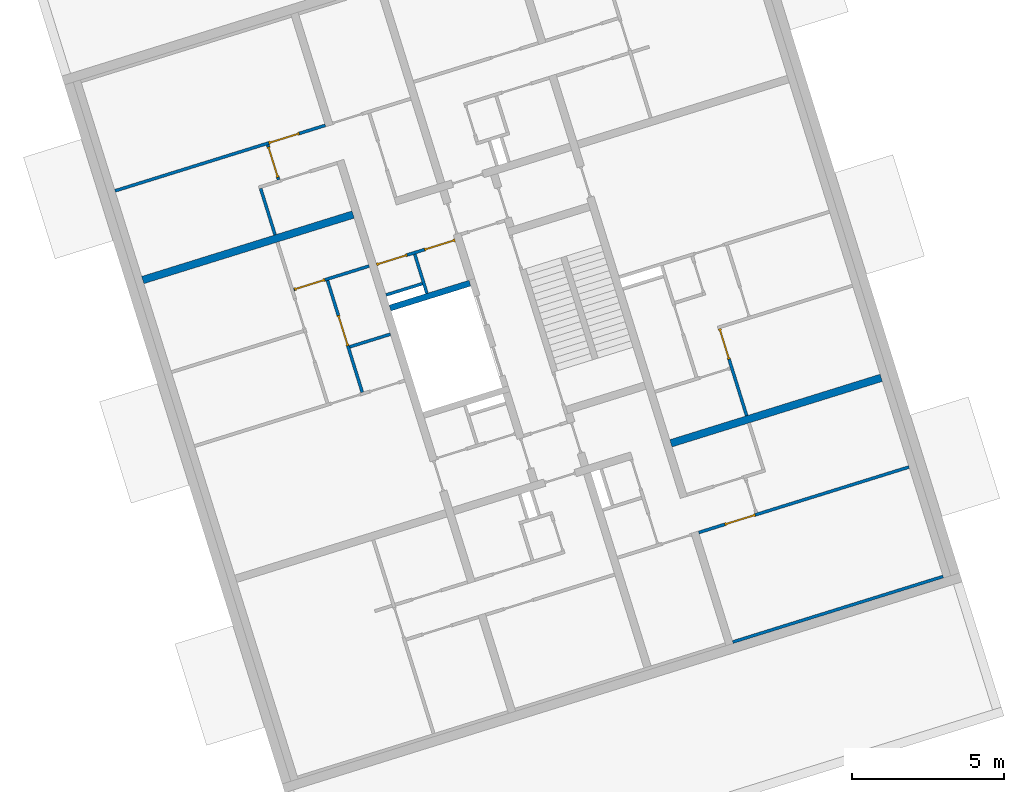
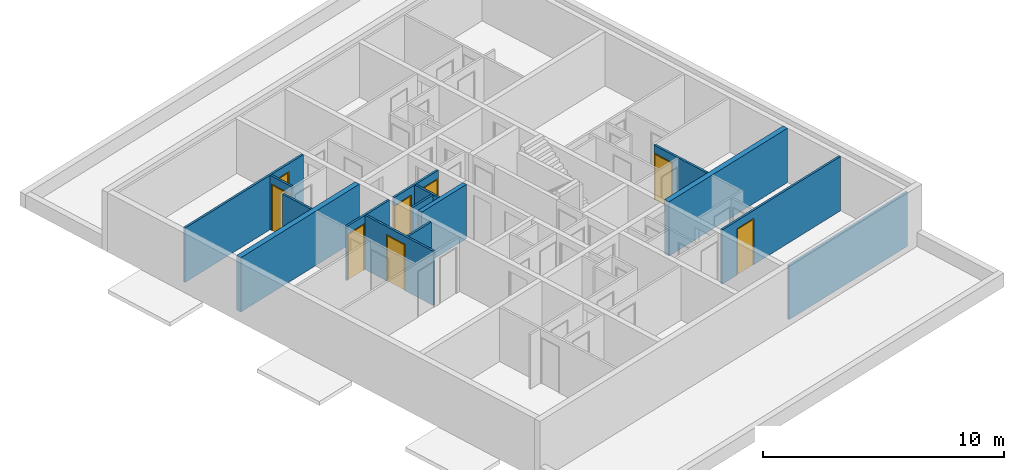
# One storey, part 4 of 9: 15 walls, 8 doors, 10 openings.
"""IFC4 building model written with IfcOpenShell, lengths in metres."""

import ifcopenshell
import ifcopenshell.guid

model = None  # the IFC model being written
_history = None  # IfcOwnerHistory: only IFC2X3 demands one
_inside = {}  # id of a spatial element -> (the spatial element, [elements in it])
_under = {}  # id of a project, library or spatial element -> (it, [spatial elements below it])
_declared = {}  # id of a project -> (the project, [libraries it declares])
_typed = {}  # id of a type object -> (the type object, [elements of that type])
_made_of = {}  # id of a material, layer set ... -> (it, [elements and type objects made of it])


def new_model(schema):
    """Start an empty IFC model of exactly this schema.

    Asked for "IFC4X3", IfcOpenShell would pick the latest addendum, in which some entities
    have other attributes; the version numbers below select the first issue.
    IFC2X3 requires an IfcOwnerHistory on every rooted entity: one is made here for all.
    """
    global model, _history
    if schema == "IFC4X3":
        model = ifcopenshell.file(schema_version=(4, 3, 0, 0))
    else:
        model = ifcopenshell.file(schema=schema)
    _inside.clear()
    _under.clear()
    _declared.clear()
    _typed.clear()
    _made_of.clear()
    _history = None
    if model.schema == "IFC2X3":
        org = make("IfcOrganization", Name="unknown")
        user = make(
            "IfcPersonAndOrganization",
            ThePerson=make("IfcPerson", FamilyName="unknown"),
            TheOrganization=org,
        )
        app = make(
            "IfcApplication",
            ApplicationDeveloper=org,
            Version="unknown",
            ApplicationFullName="unknown",
            ApplicationIdentifier="unknown",
        )
        _history = make(
            "IfcOwnerHistory",
            OwningUser=user,
            OwningApplication=app,
            ChangeAction="ADDED",
            CreationDate=0,
        )
    return model


def make(cls, **values):
    """One entity of the class cls with the attributes given. An attribute that is None is left unset."""
    return model.create_entity(
        cls, **{name: value for name, value in values.items() if value is not None}
    )


def entity(cls, *values):
    """Any entity or typed value of the class cls, its attributes in the order of the schema. None: left unset."""
    e = model.create_entity(cls)
    for i, value in enumerate(values):
        if value is not None:
            e[i] = value
    return e


def rooted(cls, **values):
    """An entity with a GlobalId (a new one), such as an element, a storey or a relation."""
    return make(cls, GlobalId=ifcopenshell.guid.new(), OwnerHistory=_history, **values)


def si_unit(unit_type, name, prefix=None):
    """IfcSIUnit, for example si_unit("LENGTHUNIT", "METRE", prefix="MILLI")."""
    return make("IfcSIUnit", UnitType=unit_type, Prefix=prefix, Name=name)


def converted_unit(unit_type, name, factor, base, dimensions=None, offset=None):
    """IfcConversionBasedUnit, such as the inch: factor (a typed value) times the base unit."""
    return make(
        "IfcConversionBasedUnit"
        if offset is None
        else "IfcConversionBasedUnitWithOffset",
        ConversionOffset=offset,
        Dimensions=None
        if dimensions is None
        else entity("IfcDimensionalExponents", *dimensions),
        UnitType=unit_type,
        Name=name,
        ConversionFactor=make(
            "IfcMeasureWithUnit", ValueComponent=factor, UnitComponent=base
        ),
    )


def assignment(units):
    """IfcUnitAssignment: the units of a project."""
    return None if units is None else make("IfcUnitAssignment", Units=units)


def point(xyz):
    """IfcCartesianPoint."""
    return None if xyz is None else make("IfcCartesianPoint", Coordinates=xyz)


def direction(xyz):
    """IfcDirection."""
    return None if xyz is None else make("IfcDirection", DirectionRatios=xyz)


def frame(location, z_axis=None, x_axis=None):
    """IfcAxis2Placement3D, a coordinate frame: its origin and axes. An axis left out is left unset."""
    return make(
        "IfcAxis2Placement3D",
        Location=point(location),
        Axis=direction(z_axis),
        RefDirection=direction(x_axis),
    )


def origin():
    """The frame at (0, 0, 0) with its axes left unset."""
    return frame((0.0, 0.0, 0.0))


def place(relative_to, where):
    """IfcLocalPlacement: puts the frame where relative to a parent placement (None: the world)."""
    return make(
        "IfcLocalPlacement", PlacementRelTo=relative_to, RelativePlacement=where
    )


def context(
    kind, dimensions, precision=None, world=None, true_north=None, identifier=None
):
    """IfcGeometricRepresentationContext, for example the 3D "Model" context."""
    return make(
        "IfcGeometricRepresentationContext",
        ContextIdentifier=identifier,
        ContextType=kind,
        CoordinateSpaceDimension=dimensions,
        Precision=precision,
        WorldCoordinateSystem=world,
        TrueNorth=true_north,
    )


def subcontext(parent, identifier, kind, view, scale=None):
    """IfcGeometricRepresentationSubContext, for example "Body" below "Model"."""
    return make(
        "IfcGeometricRepresentationSubContext",
        ContextIdentifier=identifier,
        ContextType=kind,
        ParentContext=parent,
        TargetScale=scale,
        TargetView=view,
    )


def project(units=None, contexts=None):
    """IfcProject with its units and contexts."""
    return rooted(
        "IfcProject",
        Name="project",
        RepresentationContexts=contexts,
        UnitsInContext=assignment(units),
    )


def spatial(cls, under=None, at=None, **own):
    """A site, building, storey or space (cls), placed at a placement, below another one or the project."""
    s = rooted(cls, ObjectPlacement=at, **own)
    if under is not None:
        _under.setdefault(under.id(), (under, []))[1].append(s)
    return s


def point_list(points):
    """IfcCartesianPointList2D or 3D."""
    cls = (
        "IfcCartesianPointList2D" if len(points[0]) == 2 else "IfcCartesianPointList3D"
    )
    return make(cls, CoordList=points)


def indexed_curve(points, segments=None, self_intersect=None):
    """IfcIndexedPolyCurve: lines and arcs through numbered points (the first is 1)."""
    return make(
        "IfcIndexedPolyCurve",
        Points=point_list(points),
        Segments=segments,
        SelfIntersect=self_intersect,
    )


def outline(outer, holes=None, kind="AREA"):
    """IfcArbitraryClosedProfileDef: a profile drawn as a closed curve; with holes, ...WithVoids."""
    if holes is None:
        return make("IfcArbitraryClosedProfileDef", ProfileType=kind, OuterCurve=outer)
    return make(
        "IfcArbitraryProfileDefWithVoids",
        ProfileType=kind,
        OuterCurve=outer,
        InnerCurves=holes,
    )


def extrude(swept, where, along, depth):
    """IfcExtrudedAreaSolid: the profile swept, set in the frame where, extruded along a direction by depth."""
    return make(
        "IfcExtrudedAreaSolid",
        SweptArea=swept,
        Position=where,
        ExtrudedDirection=direction(along),
        Depth=depth,
    )


def polygons(points, faces, closed=None, point_numbers=None):
    """IfcPolygonalFaceSet: a face is its outer loop, then its inner loops; points numbered from 1."""
    made = []
    for loops in faces:
        if len(loops) == 1:
            made.append(make("IfcIndexedPolygonalFace", CoordIndex=loops[0]))
        else:
            made.append(
                make(
                    "IfcIndexedPolygonalFaceWithVoids",
                    CoordIndex=loops[0],
                    InnerCoordIndices=loops[1:],
                )
            )
    return make(
        "IfcPolygonalFaceSet",
        Coordinates=point_list(points),
        Closed=closed,
        Faces=made,
        PnIndex=point_numbers,
    )


def shape(context_of_items, identifier, shape_type, items):
    """IfcShapeRepresentation: the items that make up one representation, for example the "Body"."""
    return make(
        "IfcShapeRepresentation",
        ContextOfItems=context_of_items,
        RepresentationIdentifier=identifier,
        RepresentationType=shape_type,
        Items=items,
    )


def source(mapping_origin, context_of_items, identifier, shape_type, items):
    """IfcRepresentationMap: a shape defined once, which mapped items show again and again."""
    return make(
        "IfcRepresentationMap",
        MappingOrigin=mapping_origin,
        MappedRepresentation=shape(context_of_items, identifier, shape_type, items),
    )


def transform(
    local_origin,
    x_axis=None,
    y_axis=None,
    z_axis=None,
    scale=None,
    scale2=None,
    scale3=None,
    uniform=True,
):
    """IfcCartesianTransformationOperator3D, or its non-uniform kind. x_axis, y_axis, z_axis: its Axis1, 2, 3."""
    if uniform:
        return make(
            "IfcCartesianTransformationOperator3D",
            Axis1=direction(x_axis),
            Axis2=direction(y_axis),
            LocalOrigin=point(local_origin),
            Scale=scale,
            Axis3=direction(z_axis),
        )
    return make(
        "IfcCartesianTransformationOperator3DnonUniform",
        Axis1=direction(x_axis),
        Axis2=direction(y_axis),
        LocalOrigin=point(local_origin),
        Scale=scale,
        Axis3=direction(z_axis),
        Scale2=scale2,
        Scale3=scale3,
    )


def mapped(mapping_source, mapping_target):
    """IfcMappedItem: shows the shape of a source again, moved by a transform."""
    return make(
        "IfcMappedItem", MappingSource=mapping_source, MappingTarget=mapping_target
    )


def material(Name=None, Category=None):
    """IfcMaterial."""
    return make("IfcMaterial", Name=Name, Category=Category)


def constituent(of_material, Name=None, Category=None, fraction=None):
    """IfcMaterialConstituent: one of the materials an element consists of."""
    return make(
        "IfcMaterialConstituent",
        Name=Name,
        Material=of_material,
        Fraction=fraction,
        Category=Category,
    )


def constituent_set(constituents=None, Name=None):
    """IfcMaterialConstituentSet."""
    return make(
        "IfcMaterialConstituentSet", Name=Name, MaterialConstituents=constituents
    )


def made_of(thing, what):
    """Note that an element or type object is made of a material, layer set ...; save() writes the relation."""
    if what is not None:
        _made_of.setdefault(what.id(), (what, []))[1].append(thing)
    return thing


def type_object(cls, material=None, **own):
    """A type object (cls), such as IfcWallType, which elements share."""
    return made_of(rooted(cls, **own), material)


def type_shapes(of_type, sources):
    """Give a type object the sources (RepresentationMaps) that its elements show as mapped items."""
    of_type.RepresentationMaps = sources


def element(
    cls,
    number,
    at=None,
    inside=None,
    cuts=None,
    type_object=None,
    material=None,
    context=None,
    identifier="Body",
    shape_type=None,
    held_by="IfcProductDefinitionShape",
    body=None,
    shapes=None,
    **own,
):
    """One element of the class cls, such as IfcWall. Its Tag is "e" and its number.

    at: its placement. inside: the storey or other place that contains it. cuts: it is an
    opening in that element (IfcRelVoidsElement). A single representation is given by context,
    identifier, shape_type and body (its items); several are given by shapes. held_by: the class
    of the entity that holds the representations. save() writes the other relations.
    """
    e = rooted(cls, Tag="e%d" % number, ObjectPlacement=at, **own)
    if body is not None:
        shapes = [shape(context, identifier, shape_type, body)]
    if shapes is not None:
        e.Representation = make(held_by, Representations=shapes)
    if inside is not None:
        _inside.setdefault(inside.id(), (inside, []))[1].append(e)
    if cuts is not None:
        rooted(
            "IfcRelVoidsElement", RelatingBuildingElement=cuts, RelatedOpeningElement=e
        )
    if type_object is not None:
        _typed.setdefault(type_object.id(), (type_object, []))[1].append(e)
    return made_of(e, material)


def fill(opening, filler):
    """IfcRelFillsElement: the door or window that sits in an opening."""
    return rooted(
        "IfcRelFillsElement",
        RelatingOpeningElement=opening,
        RelatedBuildingElement=filler,
    )


def aggregate(whole, parts):
    """IfcRelAggregates: a whole, such as a stair, and the parts it consists of."""
    return rooted("IfcRelAggregates", RelatingObject=whole, RelatedObjects=parts)


def save(model, path):
    """Write the relations noted so far, then the file.

    IfcRelAggregates (storeys below a building ...), IfcRelContainedInSpatialStructure (elements
    in a storey), IfcRelDefinesByType, IfcRelAssociatesMaterial and IfcRelDeclares: one each for
    every whole, place, type object, material and project.
    """
    for whole, parts in _under.values():
        aggregate(whole, parts)
    for where, things in _inside.values():
        rooted(
            "IfcRelContainedInSpatialStructure",
            RelatedElements=things,
            RelatingStructure=where,
        )
    for kind, things in _typed.values():
        rooted("IfcRelDefinesByType", RelatedObjects=things, RelatingType=kind)
    for what, things in _made_of.values():
        rooted("IfcRelAssociatesMaterial", RelatedObjects=things, RelatingMaterial=what)
    for by, libraries in _declared.values():
        rooted("IfcRelDeclares", RelatingContext=by, RelatedDefinitions=libraries)
    model.write(path)


model = new_model("IFC4")

# Units and contexts
model_context = context("Model", 3, precision=1e-05, world=origin(), true_north=direction((6.12323399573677e-17, 1.0)))
body_context = subcontext(model_context, "Body", "Model", "MODEL_VIEW")
ifc_project = project(units=[si_unit("LENGTHUNIT", "METRE"), si_unit("AREAUNIT", "SQUARE_METRE"), si_unit("VOLUMEUNIT", "CUBIC_METRE"), converted_unit("PLANEANGLEUNIT", "DEGREE", entity("IfcPlaneAngleMeasure", 0.0174532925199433), si_unit("PLANEANGLEUNIT", "RADIAN"), dimensions=[0, 0, 0, 0, 0, 0, 0])], contexts=[model_context])

# Site, building, storey
site_placement = place(None, frame((13.1347999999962, 11.9886000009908, 0.0), z_axis=(0.0, 0.0, 1.0), x_axis=(0.954770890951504, 0.297342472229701, 0.0)))
site = spatial("IfcSite", under=ifc_project, at=site_placement, Name="Schiehaven", CompositionType="ELEMENT")
building_placement = place(site_placement, origin())
building = spatial("IfcBuilding", under=site, at=building_placement, Name="VORM huis", CompositionType="ELEMENT")
storey_placement = place(building_placement, frame((0.0, 0.0, 6.9)))
storey = spatial("IfcBuildingStorey", under=building, at=storey_placement, Name="02 tweede verdieping", CompositionType="ELEMENT", Elevation=6.9)

# Walls
ifc_material_1 = material(Name="ntb_ntb_ntb", Category="Miscellaneous")
wall_type_1 = type_object("IfcWallType", Name="Basic Wall:21_WA_gevel_binnenspouwwand 100mm_gen", PredefinedType="STANDARD")
wall_1_placement = place(storey_placement, frame((20.125, 5.04999999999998, 0.0)))
element("IfcWall", 1, at=wall_1_placement, inside=storey, type_object=wall_type_1, material=ifc_material_1, Name="Binnenspouwblad", ObjectType="Wand", PredefinedType="NOTDEFINED", context=body_context, shape_type="SweptSolid", body=[
    extrude(outline(indexed_curve([(7.24999999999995, 0.0500000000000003), (-1.84844170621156e-16, 0.0500000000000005), (1.84844170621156e-16, -0.0500000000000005), (7.24999999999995, -0.0500000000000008), (7.24999999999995, 0.0500000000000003)], self_intersect=False)), origin(), (0.0, 0.0, 1.0), 2.75),
])
ifc_material_2 = material(Name="beton_gewapend_prefab-element", Category="Miscellaneous")
wall_type_2 = type_object("IfcWallType", Name="Basic Wall:28_WA_skelet_wand 200mm_gen", PredefinedType="STANDARD")
wall_2_placement = place(storey_placement, frame((15.3750000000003, 18.9, 0.0), z_axis=(0.0, 0.0, 1.0), x_axis=(-1.0, 0.0, 0.0)))
element("IfcWall", 2, at=wall_2_placement, inside=storey, type_object=wall_type_2, material=ifc_material_2, Name="Constructieve wand", ObjectType="Wand", PredefinedType="NOTDEFINED", context=body_context, shape_type="SweptSolid", body=[
    extrude(outline(indexed_curve([(2.75000000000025, 0.100000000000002), (-2.05391259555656e-16, 0.100000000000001), (2.05391259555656e-16, -0.100000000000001), (2.75000000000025, -0.0999999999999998), (2.75000000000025, 0.100000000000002)], self_intersect=False)), origin(), (0.0, 0.0, 1.0), 2.75),
])
wall_type_3 = type_object("IfcWallType", Name="Basic Wall:22_WA_afbouw_binnenwand 250mm_gen", PredefinedType="STANDARD")
wall_3_placement = place(storey_placement, frame((12.3750000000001, 22.2, 0.0), z_axis=(0.0, 0.0, 1.0), x_axis=(-1.0, 0.0, 0.0)))
element("IfcWall", 3, at=wall_3_placement, inside=storey, type_object=wall_type_3, material=ifc_material_1, Name="Binnenwand", ObjectType="Wand", PredefinedType="NOTDEFINED", context=body_context, shape_type="SweptSolid", body=[
    extrude(outline(indexed_curve([(7.24999999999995, 0.125000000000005), (-4.9649652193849e-16, 0.125000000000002), (4.9649652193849e-16, -0.125000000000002), (7.24999999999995, -0.124999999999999), (7.24999999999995, 0.125000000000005)], self_intersect=False)), origin(), (0.0, 0.0, 1.0), 2.75),
])
wall_4_placement = place(storey_placement, frame((20.125, 11.9, 0.0)))
element("IfcWall", 4, at=wall_4_placement, inside=storey, type_object=wall_type_3, material=ifc_material_1, Name="Binnenwand", ObjectType="Wand", PredefinedType="NOTDEFINED", context=body_context, shape_type="SweptSolid", body=[
    extrude(outline(indexed_curve([(7.24999999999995, 0.125), (-1.92055213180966e-16, 0.125), (1.92055213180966e-16, -0.125), (7.24999999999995, -0.124999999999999), (7.24999999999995, 0.125)], self_intersect=False)), origin(), (0.0, 0.0, 1.0), 2.75),
])

# Wall, opening, door
wall_type_4 = type_object("IfcWallType", Name="Basic Wall:22_WA_afbouw_binnenwand 100mm_gen", PredefinedType="STANDARD")
wall_5_placement = place(storey_placement, frame((27.3750000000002, 8.82499999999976, 0.0), z_axis=(0.0, 0.0, 1.0), x_axis=(-1.0, 0.0, 0.0)))
wall_5 = element("IfcWall", 5, at=wall_5_placement, inside=storey, type_object=wall_type_4, material=ifc_material_1, Name="Binnenwand", ObjectType="Wand", PredefinedType="NOTDEFINED", context=body_context, shape_type="Tessellation", body=[
    polygons([(6.35000000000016, -0.0500000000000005, 2.34999999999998), (6.35000000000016, -0.0500000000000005, 1.08286712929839e-15), (7.25000000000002, -0.0500000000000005, 1.08286712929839e-15), (7.25000000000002, -0.0500000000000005, 2.75), (5.30000000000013, -0.0500000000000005, 2.75), (5.20000000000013, -0.0500000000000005, 2.75), (5.16304195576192e-15, -0.0500000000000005, 2.75), (5.16304195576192e-15, -0.0500000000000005, 1.08286712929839e-15), (5.20000000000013, -0.0500000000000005, 0.0), (5.30000000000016, -0.0500000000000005, 1.08286712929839e-15), (5.30000000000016, -0.0500000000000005, 2.34999999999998), (7.25000000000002, 0.0499999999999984, 1.08286712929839e-15), (6.35000000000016, 0.0499999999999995, 1.08286712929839e-15), (6.35000000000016, 0.0499999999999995, 2.34999999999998), (5.30000000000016, 0.0499999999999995, 2.34999999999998), (5.30000000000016, 0.0499999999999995, 1.08286712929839e-15), (4.86084043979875e-15, 0.0500000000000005, 1.08286712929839e-15), (4.86084043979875e-15, 0.0500000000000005, 2.75), (7.25000000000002, 0.0499999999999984, 2.75)], [[[1, 2, 3, 4, 5, 6, 7, 8, 9, 10, 11]], [[12, 13, 14, 15, 16, 17, 18, 19]], [[10, 9, 8, 17, 16]], [[4, 3, 12, 19]], [[7, 6, 5, 4, 19, 18]], [[8, 7, 18, 17]], [[16, 15, 11, 10]], [[14, 13, 2, 1]], [[15, 14, 1, 11]], [[3, 2, 13, 12]]], closed=True),
])
opening_1_placement = place(wall_5_placement, frame((6.35000000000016, 0.04999999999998, 0.0)))
opening_1 = element("IfcOpeningElement", 6, at=opening_1_placement, cuts=wall_5, Name="Binnendeur", PredefinedType="OPENING", context=body_context, shape_type="SweptSolid", body=[
    extrude(outline(indexed_curve([(2.34999999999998, 1.05), (0.0, 1.05), (0.0, 0.0), (2.34999999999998, 0.0), (2.34999999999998, 1.05)], self_intersect=False)), frame((0.0, 0.0, 0.0), z_axis=(0.0, -1.0, 0.0), x_axis=(0.0, 0.0, 1.0)), (0.0, 0.0, 1.0), 0.1),
])
ifc_material_3 = material(Name="PD_a_binnenwandopeningen", Category="Miscellaneous")
ifc_constituent_1 = constituent(ifc_material_3, Name="PD_a_binnenwandopeningen", Category="Miscellaneous")
ifc_material_4 = material(Name="metaal_aluminium_ntb", Category="Miscellaneous")
ifc_constituent_2 = constituent(ifc_material_4, Name="metaal_aluminium_ntb", Category="Miscellaneous")
ifc_constituent_set_1 = constituent_set(constituents=[ifc_constituent_1, ifc_constituent_2])
door_type = type_object("IfcDoorType", Name="32_DO_binnendeur enkel:binnendeur", OperationType="REVOLVING", PredefinedType="DOOR")
shared_shape_1 = source(origin(), body_context, "Body", "SweptSolid", [
    extrude(outline(indexed_curve([(-1.16249999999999, -0.525000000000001), (1.18749999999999, -0.525), (1.18749999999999, 0.525), (-1.16249999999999, 0.525), (-1.16249999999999, 0.475), (1.13749999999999, 0.475), (1.13749999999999, -0.475), (-1.16249999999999, -0.475), (-1.16249999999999, -0.525000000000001)], self_intersect=False)), frame((0.525000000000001, 0.0, 1.16249999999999), z_axis=(0.0, 1.0, 0.0), x_axis=(0.0, 0.0, 1.0)), (0.0, 0.0, 1.0), 0.1),
    extrude(outline(indexed_curve([(-0.025, -0.475), (0.025, -0.475), (0.025, 0.475), (-0.025, 0.475), (-0.025, -0.475)], self_intersect=False)), frame((0.525000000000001, 0.0499999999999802, 0.0), z_axis=(0.0, 0.0, 1.0), x_axis=(0.0, 1.0, 0.0)), (0.0, 0.0, 1.0), 2.29999999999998),
])
type_shapes(door_type, [shared_shape_1])
door_1_placement = place(opening_1_placement, frame((0.0, 0.0, 0.0), z_axis=(0.0, 0.0, 1.0), x_axis=(-1.0, 0.0, 0.0)))
door_1 = element("IfcDoor", 7, at=door_1_placement, inside=storey, type_object=door_type, material=ifc_constituent_set_1, Name="Binnendeur", ObjectType="Deur", OperationType="REVOLVING", OverallHeight=2.34999999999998, OverallWidth=1.05, PredefinedType="DOOR", context=body_context, shape_type="MappedRepresentation", body=[
    mapped(shared_shape_1, transform((0.0, 0.0, 0.0), scale=1.0)),
])
fill(opening_1, door_1)

wall_6_placement = place(storey_placement, frame((22.7750000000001, 12.025, 0.0), z_axis=(0.0, 0.0, 1.0), x_axis=(0.0, 1.0, 0.0)))
wall_6 = element("IfcWall", 8, at=wall_6_placement, inside=storey, type_object=wall_type_4, material=ifc_material_1, Name="Binnenwand", ObjectType="Wand", PredefinedType="NOTDEFINED", context=body_context, shape_type="Tessellation", body=[
    polygons([(3.00000000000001, -0.0499999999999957, 2.75), (0.0, -0.049999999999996, 2.75), (0.0, -0.049999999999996, 1.08286712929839e-15), (1.95000000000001, -0.0499999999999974, 1.08286712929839e-15), (1.95000000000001, -0.0499999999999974, 2.34999999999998), (3.00000000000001, -0.0499999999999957, 2.34999999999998), (0.0, 0.0500000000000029, 2.75), (1.60000000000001, 0.050000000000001, 2.75), (1.70000000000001, 0.0500000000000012, 2.75), (3.00000000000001, 0.0500000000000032, 2.75), (3.00000000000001, 0.0500000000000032, 2.34999999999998), (1.95000000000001, 0.0500000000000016, 2.34999999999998), (1.95000000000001, 0.0500000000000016, 1.08286712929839e-15), (1.70000000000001, 0.0500000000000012, 0.0), (1.60000000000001, 0.050000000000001, 0.0), (0.0, 0.0500000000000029, 1.08286712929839e-15)], [[[1, 2, 3, 4, 5, 6]], [[7, 8, 9, 10, 11, 12, 13, 14, 15, 16]], [[3, 16, 15, 14, 13, 4]], [[2, 1, 10, 9, 8, 7]], [[3, 2, 7, 16]], [[10, 1, 6, 11]], [[12, 5, 4, 13]], [[5, 12, 11, 6]]], closed=True),
])
opening_2_placement = place(wall_6_placement, frame((1.95000000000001, -0.0500000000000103, 0.0)))
opening_2 = element("IfcOpeningElement", 9, at=opening_2_placement, cuts=wall_6, Name="Binnendeur", PredefinedType="OPENING", context=body_context, shape_type="SweptSolid", body=[
    extrude(outline(indexed_curve([(2.34999999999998, 1.05), (0.0, 1.05), (0.0, 1.35358391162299e-15), (2.34999999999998, 1.35358391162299e-15), (2.34999999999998, 1.05)], self_intersect=False)), frame((0.0, 0.0, 0.0), z_axis=(0.0, 1.0, 0.0), x_axis=(0.0, 0.0, 1.0)), (0.0, 0.0, 1.0), 0.1),
])
ifc_constituent_3 = constituent(ifc_material_3, Name="PD_a_binnenwandopeningen", Category="Miscellaneous")
ifc_constituent_4 = constituent(ifc_material_4, Name="metaal_aluminium_ntb", Category="Miscellaneous")
ifc_constituent_set_2 = constituent_set(constituents=[ifc_constituent_3, ifc_constituent_4])
door_2_placement = place(opening_2_placement, origin())
door_2 = element("IfcDoor", 10, at=door_2_placement, inside=storey, type_object=door_type, material=ifc_constituent_set_2, Name="Binnendeur", ObjectType="Deur", OperationType="REVOLVING", OverallHeight=2.34999999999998, OverallWidth=1.05, PredefinedType="DOOR", context=body_context, shape_type="MappedRepresentation", body=[
    mapped(shared_shape_1, transform((0.0, 0.0, 0.0), scale=1.0)),
])
fill(opening_2, door_2)

wall_7_placement = place(storey_placement, frame((5.12500000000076, 25.2750000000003, 0.0)))
wall_7 = element("IfcWall", 11, at=wall_7_placement, inside=storey, type_object=wall_type_4, material=ifc_material_1, Name="Binnenwand", ObjectType="Wand", PredefinedType="NOTDEFINED", context=body_context, shape_type="Tessellation", body=[
    polygons([(6.35000000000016, -0.0499999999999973, 2.34999999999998), (6.35000000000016, -0.0499999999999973, 1.08286712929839e-15), (7.25000000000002, -0.0499999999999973, 1.08286712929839e-15), (7.25000000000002, -0.0499999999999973, 2.75), (5.30000000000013, -0.0499999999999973, 2.75), (5.20000000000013, -0.0499999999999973, 2.75), (1.49648379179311e-16, -0.0499999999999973, 2.75), (1.49648379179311e-16, -0.0499999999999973, 1.08286712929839e-15), (5.20000000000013, -0.0499999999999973, 0.0), (5.30000000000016, -0.0499999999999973, 1.08286712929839e-15), (5.30000000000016, -0.0499999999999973, 2.34999999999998), (7.25000000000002, 0.0500000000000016, 1.08286712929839e-15), (6.35000000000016, 0.0500000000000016, 1.08286712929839e-15), (6.35000000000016, 0.0500000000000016, 2.34999999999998), (5.30000000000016, 0.0500000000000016, 2.34999999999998), (5.30000000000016, 0.0500000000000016, 1.08286712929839e-15), (-8.58641826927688e-17, 0.0500000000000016, 1.08286712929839e-15), (-8.58641826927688e-17, 0.0500000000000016, 2.75), (7.25000000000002, 0.0500000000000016, 2.75)], [[[1, 2, 3, 4, 5, 6, 7, 8, 9, 10, 11]], [[12, 13, 14, 15, 16, 17, 18, 19]], [[10, 9, 8, 17, 16]], [[4, 3, 12, 19]], [[7, 6, 5, 4, 19, 18]], [[8, 7, 18, 17]], [[16, 15, 11, 10]], [[14, 13, 2, 1]], [[15, 14, 1, 11]], [[3, 2, 13, 12]]], closed=True),
])
opening_3_placement = place(wall_7_placement, frame((6.35000000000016, 0.049999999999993, 0.0)))
opening_3 = element("IfcOpeningElement", 12, at=opening_3_placement, cuts=wall_7, Name="Binnendeur", PredefinedType="OPENING", context=body_context, shape_type="SweptSolid", body=[
    extrude(outline(indexed_curve([(2.34999999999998, 1.05), (0.0, 1.05), (0.0, 1.08286712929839e-15), (2.34999999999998, 1.08286712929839e-15), (2.34999999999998, 1.05)], self_intersect=False)), frame((0.0, 0.0, 0.0), z_axis=(0.0, -1.0, 0.0), x_axis=(0.0, 0.0, 1.0)), (0.0, 0.0, 1.0), 0.1),
])
ifc_constituent_5 = constituent(ifc_material_3, Name="PD_a_binnenwandopeningen", Category="Miscellaneous")
ifc_constituent_6 = constituent(ifc_material_4, Name="metaal_aluminium_ntb", Category="Miscellaneous")
ifc_constituent_set_3 = constituent_set(constituents=[ifc_constituent_5, ifc_constituent_6])
door_3_placement = place(opening_3_placement, frame((0.0, 0.0, 0.0), z_axis=(0.0, 0.0, 1.0), x_axis=(-1.0, 0.0, 0.0)))
door_3 = element("IfcDoor", 13, at=door_3_placement, inside=storey, type_object=door_type, material=ifc_constituent_set_3, Name="Binnendeur", ObjectType="Deur", OperationType="REVOLVING", OverallHeight=2.34999999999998, OverallWidth=1.05, PredefinedType="DOOR", context=body_context, shape_type="MappedRepresentation", body=[
    mapped(shared_shape_1, transform((0.0, 0.0, 0.0), scale=1.0)),
])
fill(opening_3, door_3)

# Wall
wall_8_placement = place(storey_placement, frame((9.7250000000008, 23.9250000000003, 0.0), z_axis=(0.0, 0.0, 1.0), x_axis=(0.0, -1.0, 0.0)))
element("IfcWall", 14, at=wall_8_placement, inside=storey, type_object=wall_type_4, material=ifc_material_1, Name="Binnenwand", ObjectType="Wand", PredefinedType="NOTDEFINED", context=body_context, shape_type="SweptSolid", body=[
    extrude(outline(indexed_curve([(1.60000000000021, 0.0500000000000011), (-8.47752397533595e-17, 0.0500000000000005), (8.47752397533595e-17, -0.0500000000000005), (1.60000000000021, -0.0500000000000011), (1.60000000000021, 0.0500000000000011)], self_intersect=False)), origin(), (0.0, 0.0, 1.0), 2.75),
])

# Wall, openings, door
wall_9_placement = place(storey_placement, frame((10.3750000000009, 24.0250000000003, 0.0), z_axis=(0.0, 0.0, 1.0), x_axis=(0.0, 1.0, 0.0)))
wall_9 = element("IfcWall", 15, at=wall_9_placement, inside=storey, type_object=wall_type_4, material=ifc_material_1, Name="Binnenwand", ObjectType="Wand", PredefinedType="NOTDEFINED", context=body_context, shape_type="Tessellation", body=[
    polygons([(1.19999999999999, -0.0499999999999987, 2.75), (0.0, -0.0500000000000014, 2.75), (0.0, -0.0499999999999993, 2.34999999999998), (0.0, -0.0500000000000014, 1.08286712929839e-15), (0.0799999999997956, -0.0500000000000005, 1.08286712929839e-15), (0.0799999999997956, -0.0500000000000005, 2.34999999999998), (1.1299999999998, -0.0499999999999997, 2.34999999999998), (1.1299999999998, -0.0499999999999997, 1.08286712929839e-15), (1.19999999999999, -0.0499999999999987, 1.08286712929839e-15), (1.19999999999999, -0.0500000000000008, 2.34999999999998), (0.0, 0.0499999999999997, 2.75), (1.19999999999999, 0.0499999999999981, 2.75), (1.19999999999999, 0.0499999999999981, 1.08286712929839e-15), (1.1299999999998, 0.0499999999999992, 1.08286712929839e-15), (1.1299999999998, 0.0499999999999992, 2.34999999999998), (0.0799999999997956, 0.0499999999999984, 2.34999999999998), (0.0799999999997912, 0.0499999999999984, 1.08286712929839e-15), (0.0, 0.0499999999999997, 1.08286712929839e-15)], [[[1, 2, 3, 4, 5, 6, 7, 8, 9, 10]], [[11, 12, 13, 14, 15, 16, 17, 18]], [[4, 18, 17, 5]], [[2, 1, 12, 11]], [[1, 10, 9, 13, 12]], [[4, 3, 2, 11, 18]], [[7, 15, 14, 8]], [[15, 7, 6, 16]], [[16, 6, 5, 17]], [[13, 9, 8, 14]]], closed=True),
])
opening_4_placement = place(wall_9_placement, frame((1.1299999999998, 0.0500000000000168, 0.0)))
opening_4 = element("IfcOpeningElement", 16, at=opening_4_placement, cuts=wall_9, Name="Binnendeur", PredefinedType="OPENING", context=body_context, shape_type="SweptSolid", body=[
    extrude(outline(indexed_curve([(2.34999999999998, 0.0), (2.34999999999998, 1.05), (0.0, 1.05), (0.0, 0.0), (2.34999999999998, 0.0)], self_intersect=False)), frame((0.0, 0.0, 0.0), z_axis=(0.0, -1.0, 0.0), x_axis=(0.0, 0.0, 1.0)), (0.0, 0.0, 1.0), 0.1),
])
opening_5_placement = place(wall_9_placement, frame((-24.0250000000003, 10.3750000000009, 0.0), z_axis=(0.0, 0.0, 1.0), x_axis=(0.0, -1.0, 0.0)))
element("IfcOpeningElement", 17, at=opening_5_placement, cuts=wall_9, Name="Binnendeur", PredefinedType="OPENING", context=body_context, shape_type="SweptSolid", body=[
    extrude(outline(indexed_curve([(-1.17499999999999, -0.524999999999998), (1.17499999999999, -0.525000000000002), (1.17499999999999, 0.525000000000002), (-1.17499999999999, 0.525000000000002), (-1.17499999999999, -0.524999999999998)], self_intersect=False)), frame((11.8490000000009, 24.6300000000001, 1.17499999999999), z_axis=(-1.0, 0.0, 0.0), x_axis=(0.0, 0.0, -1.0)), (0.0, 0.0, 1.0), 3.048),
])
ifc_constituent_7 = constituent(ifc_material_3, Name="PD_a_binnenwandopeningen", Category="Miscellaneous")
ifc_constituent_8 = constituent(ifc_material_4, Name="metaal_aluminium_ntb", Category="Miscellaneous")
ifc_constituent_set_4 = constituent_set(constituents=[ifc_constituent_7, ifc_constituent_8])
shared_shape_2 = source(origin(), body_context, "Body", "SweptSolid", [
    extrude(outline(indexed_curve([(0.475, -1.16249999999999), (0.525, -1.16249999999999), (0.525, 1.18749999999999), (-0.525, 1.18749999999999), (-0.525, -1.16249999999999), (-0.475, -1.16249999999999), (-0.475, 1.13749999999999), (0.475, 1.13749999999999), (0.475, -1.16249999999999)], self_intersect=False)), frame((0.525000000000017, 0.100000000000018, 1.16249999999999), z_axis=(0.0, -1.0, 0.0), x_axis=(1.0, 0.0, 0.0)), (0.0, 0.0, 1.0), 0.1),
    extrude(outline(indexed_curve([(-0.475, -0.025), (0.475, -0.025), (0.475, 0.025), (-0.475, 0.025), (-0.475, -0.025)], self_intersect=False)), frame((0.525000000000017, 0.0499999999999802, 0.0)), (0.0, 0.0, 1.0), 2.29999999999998),
])
door_4_placement = place(opening_4_placement, frame((0.0, 0.0, 0.0), z_axis=(0.0, 0.0, 1.0), x_axis=(-1.0, 0.0, 0.0)))
door_4 = element("IfcDoor", 18, at=door_4_placement, inside=storey, type_object=door_type, material=ifc_constituent_set_4, Name="Binnendeur", ObjectType="Deur", OperationType="REVOLVING", OverallHeight=2.34999999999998, OverallWidth=1.05, PredefinedType="DOOR", context=body_context, shape_type="MappedRepresentation", body=[
    mapped(shared_shape_2, transform((0.0, 0.0, 0.0), scale=1.0)),
])
fill(opening_4, door_4)

# Wall
wall_10_placement = place(storey_placement, frame((13.9250000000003, 19.0, 0.0), z_axis=(0.0, 0.0, 1.0), x_axis=(0.0, 1.0, 0.0)))
element("IfcWall", 19, at=wall_10_placement, inside=storey, type_object=wall_type_4, material=ifc_material_1, Name="Binnenwand", ObjectType="Wand", PredefinedType="NOTDEFINED", context=body_context, shape_type="SweptSolid", body=[
    extrude(outline(indexed_curve([(1.34999999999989, 0.05), (-2.17202003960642e-17, 0.0499999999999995), (2.17202003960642e-17, -0.0499999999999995), (1.34999999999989, -0.0499999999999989), (1.34999999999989, 0.05)], self_intersect=False)), origin(), (0.0, 0.0, 1.0), 2.75),
])

# Wall, openings, doors
wall_11_placement = place(storey_placement, frame((12.6250000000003, 20.4, 0.0)))
wall_11 = element("IfcWall", 20, at=wall_11_placement, inside=storey, type_object=wall_type_4, material=ifc_material_1, Name="Binnenwand", ObjectType="Wand", PredefinedType="NOTDEFINED", context=body_context, shape_type="Tessellation", body=[
    polygons([(2.70000000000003, -0.0499999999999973, 2.75), (1.35000000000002, -0.0499999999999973, 2.75), (1.25000000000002, -0.0499999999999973, 2.75), (9.09406101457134e-16, -0.0499999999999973, 2.75), (9.09406101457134e-16, -0.0499999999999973, 2.34999999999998), (1.05000000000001, -0.0499999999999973, 2.34999999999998), (1.05000000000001, -0.0499999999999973, 1.08286712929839e-15), (1.25000000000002, -0.0499999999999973, 0.0), (1.35000000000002, -0.0499999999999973, 0.0), (1.65000000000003, -0.0499999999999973, 1.08286712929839e-15), (1.65000000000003, -0.0499999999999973, 2.34999999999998), (2.70000000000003, -0.0499999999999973, 2.34999999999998), (1.89829959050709e-15, 0.0500000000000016, 2.75), (2.70000000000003, 0.0500000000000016, 2.75), (2.70000000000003, 0.0500000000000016, 2.34999999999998), (1.65000000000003, 0.0500000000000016, 2.34999999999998), (1.65000000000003, 0.0500000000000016, 1.08286712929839e-15), (1.05000000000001, 0.0500000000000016, 1.08286712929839e-15), (1.05000000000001, 0.0500000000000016, 2.34999999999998), (1.89829959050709e-15, 0.0500000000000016, 2.34999999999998)], [[[1, 2, 3, 4, 5, 6, 7, 8, 9, 10, 11, 12]], [[13, 14, 15, 16, 17, 18, 19, 20]], [[17, 10, 9, 8, 7, 18]], [[14, 1, 12, 15]], [[4, 3, 2, 1, 14, 13]], [[4, 13, 20, 5]], [[6, 19, 18, 7]], [[19, 6, 5, 20]], [[16, 11, 10, 17]], [[11, 16, 15, 12]]], closed=True),
])
opening_6_placement = place(wall_11_placement, frame((0.0, -0.050000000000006, 0.0)))
opening_6 = element("IfcOpeningElement", 21, at=opening_6_placement, cuts=wall_11, Name="Binnendeur", PredefinedType="OPENING", context=body_context, shape_type="SweptSolid", body=[
    extrude(outline(indexed_curve([(2.34999999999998, 1.05), (0.0, 1.05), (0.0, 1.35358391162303e-15), (2.34999999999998, 1.35358391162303e-15), (2.34999999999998, 1.05)], self_intersect=False)), frame((0.0, 0.0, 0.0), z_axis=(0.0, 1.0, 0.0), x_axis=(0.0, 0.0, 1.0)), (0.0, 0.0, 1.0), 0.1),
])
opening_7_placement = place(wall_11_placement, frame((-12.6250000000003, -20.4, 0.0)))
element("IfcOpeningElement", 22, at=opening_7_placement, cuts=wall_11, Name="Binnendeur", PredefinedType="OPENING", context=body_context, shape_type="SweptSolid", body=[
    extrude(outline(indexed_curve([(-1.17499999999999, -0.525000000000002), (1.17499999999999, -0.525), (1.17499999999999, 0.525), (-1.17499999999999, 0.525), (-1.17499999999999, -0.525000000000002)], self_intersect=False)), frame((13.1500000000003, 18.826, 1.17499999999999), z_axis=(0.0, 1.0, 0.0), x_axis=(0.0, 0.0, -1.0)), (0.0, 0.0, 1.0), 3.048),
])
opening_8_placement = place(wall_11_placement, frame((1.65000000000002, -0.0500000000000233, 0.0)))
opening_8 = element("IfcOpeningElement", 23, at=opening_8_placement, cuts=wall_11, Name="Binnendeur", PredefinedType="OPENING", context=body_context, shape_type="SweptSolid", body=[
    extrude(outline(indexed_curve([(2.34999999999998, 1.05), (0.0, 1.05), (0.0, 1.35358391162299e-15), (2.34999999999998, 1.35358391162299e-15), (2.34999999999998, 1.05)], self_intersect=False)), frame((0.0, 0.0, 0.0), z_axis=(0.0, 1.0, 0.0), x_axis=(0.0, 0.0, 1.0)), (0.0, 0.0, 1.0), 0.1),
])
ifc_constituent_9 = constituent(ifc_material_3, Name="PD_a_binnenwandopeningen", Category="Miscellaneous")
ifc_constituent_10 = constituent(ifc_material_4, Name="metaal_aluminium_ntb", Category="Miscellaneous")
ifc_constituent_set_5 = constituent_set(constituents=[ifc_constituent_9, ifc_constituent_10])
door_5_placement = place(opening_6_placement, origin())
door_5 = element("IfcDoor", 24, at=door_5_placement, inside=storey, type_object=door_type, material=ifc_constituent_set_5, Name="Binnendeur", ObjectType="Deur", OperationType="REVOLVING", OverallHeight=2.34999999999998, OverallWidth=1.05, PredefinedType="DOOR", context=body_context, shape_type="MappedRepresentation", body=[
    mapped(shared_shape_1, transform((0.0, 0.0, 0.0), scale=1.0)),
])
fill(opening_6, door_5)
ifc_constituent_11 = constituent(ifc_material_3, Name="PD_a_binnenwandopeningen", Category="Miscellaneous")
ifc_constituent_12 = constituent(ifc_material_4, Name="metaal_aluminium_ntb", Category="Miscellaneous")
ifc_constituent_set_6 = constituent_set(constituents=[ifc_constituent_11, ifc_constituent_12])
door_6_placement = place(opening_8_placement, origin())
door_6 = element("IfcDoor", 25, at=door_6_placement, inside=storey, type_object=door_type, material=ifc_constituent_set_6, Name="Binnendeur", ObjectType="Deur", OperationType="REVOLVING", OverallHeight=2.34999999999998, OverallWidth=1.05, PredefinedType="DOOR", context=body_context, shape_type="MappedRepresentation", body=[
    mapped(shared_shape_1, transform((0.0, 0.0, 0.0), scale=1.0)),
])
fill(opening_8, door_6)

# Wall
wall_12_placement = place(storey_placement, frame((12.6250000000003, 19.3499999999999, 0.0)))
element("IfcWall", 26, at=wall_12_placement, inside=storey, type_object=wall_type_4, material=ifc_material_1, Name="Binnenwand", ObjectType="Wand", PredefinedType="NOTDEFINED", context=body_context, shape_type="SweptSolid", body=[
    extrude(outline(indexed_curve([(1.25000000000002, 0.0500000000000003), (9.21562864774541e-16, 0.0499999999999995), (-9.21562864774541e-16, -0.0499999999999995), (1.25000000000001, -0.0499999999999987), (1.25000000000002, 0.0500000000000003)], self_intersect=False)), origin(), (0.0, 0.0, 1.0), 2.75),
])

# Wall, opening, door
wall_13_placement = place(storey_placement, frame((9.77500000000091, 20.4250000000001, 0.0)))
wall_13 = element("IfcWall", 27, at=wall_13_placement, inside=storey, type_object=wall_type_4, material=ifc_material_1, Name="Binnenwand", ObjectType="Wand", PredefinedType="NOTDEFINED", context=body_context, shape_type="Tessellation", body=[
    polygons([(1.075, -0.0499999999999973, 2.34999999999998), (1.075, -0.0499999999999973, 1.08286712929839e-15), (1.1, -0.0499999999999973, 0.0), (1.2, -0.0499999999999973, 0.0), (2.59999999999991, -0.0499999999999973, 1.08286712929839e-15), (2.59999999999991, -0.0499999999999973, 2.75), (1.2, -0.0499999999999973, 2.75), (1.1, -0.0499999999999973, 2.75), (9.59700802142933e-16, -0.0499999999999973, 2.75), (9.59700802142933e-16, -0.0499999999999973, 1.08286712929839e-15), (0.0250000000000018, -0.0499999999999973, 1.08286712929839e-15), (0.0250000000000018, -0.0499999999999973, 2.34999999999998), (2.59999999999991, 0.0500000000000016, 1.08286712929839e-15), (1.075, 0.0500000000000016, 1.08286712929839e-15), (1.075, 0.0500000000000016, 2.34999999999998), (0.0250000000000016, 0.0500000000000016, 2.34999999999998), (0.0250000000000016, 0.0500000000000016, 1.08286712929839e-15), (8.26229172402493e-16, 0.0500000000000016, 1.08286712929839e-15), (8.26229172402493e-16, 0.0500000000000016, 2.75), (2.59999999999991, 0.0500000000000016, 2.75)], [[[1, 2, 3, 4, 5, 6, 7, 8, 9, 10, 11, 12]], [[13, 14, 15, 16, 17, 18, 19, 20]], [[11, 10, 18, 17]], [[6, 5, 13, 20]], [[9, 8, 7, 6, 20, 19]], [[10, 9, 19, 18]], [[17, 16, 12, 11]], [[15, 14, 2, 1]], [[16, 15, 1, 12]], [[5, 4, 3, 2, 14, 13]]], closed=True),
])
opening_9_placement = place(wall_13_placement, frame((1.075, 0.0500000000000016, 0.0)))
opening_9 = element("IfcOpeningElement", 28, at=opening_9_placement, cuts=wall_13, Name="Binnendeur", PredefinedType="OPENING", context=body_context, shape_type="SweptSolid", body=[
    extrude(outline(indexed_curve([(2.34999999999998, 1.05), (0.0, 1.05), (0.0, 1.35358391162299e-15), (2.34999999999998, 1.35358391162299e-15), (2.34999999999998, 1.05)], self_intersect=False)), frame((0.0, 0.0, 0.0), z_axis=(0.0, -1.0, 0.0), x_axis=(0.0, 0.0, 1.0)), (0.0, 0.0, 1.0), 0.1),
])
ifc_constituent_13 = constituent(ifc_material_3, Name="PD_a_binnenwandopeningen", Category="Miscellaneous")
ifc_constituent_14 = constituent(ifc_material_4, Name="metaal_aluminium_ntb", Category="Miscellaneous")
ifc_constituent_set_7 = constituent_set(constituents=[ifc_constituent_13, ifc_constituent_14])
door_7_placement = place(opening_9_placement, frame((0.0, 0.0, 0.0), z_axis=(0.0, 0.0, 1.0), x_axis=(-1.0, 0.0, 0.0)))
door_7 = element("IfcDoor", 29, at=door_7_placement, inside=storey, type_object=door_type, material=ifc_constituent_set_7, Name="Binnendeur", ObjectType="Deur", OperationType="REVOLVING", OverallHeight=2.34999999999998, OverallWidth=1.05, PredefinedType="DOOR", context=body_context, shape_type="MappedRepresentation", body=[
    mapped(shared_shape_1, transform((0.0, 0.0, 0.0), scale=1.0)),
])
fill(opening_9, door_7)

wall_14_placement = place(storey_placement, frame((10.9250000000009, 20.3750000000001, 0.0), z_axis=(0.0, 0.0, 1.0), x_axis=(0.0, -1.0, 0.0)))
wall_14 = element("IfcWall", 30, at=wall_14_placement, inside=storey, type_object=wall_type_4, material=ifc_material_1, Name="Binnenwand", ObjectType="Wand", PredefinedType="NOTDEFINED", context=body_context, shape_type="Tessellation", body=[
    polygons([(2.25000000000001, -0.0500000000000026, 2.34999999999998), (2.25000000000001, -0.0500000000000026, 1.08286712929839e-15), (3.85000000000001, -0.0500000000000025, 1.08286712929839e-15), (3.85000000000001, -0.0500000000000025, 2.75), (0.0, -0.0500000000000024, 2.75), (0.0, -0.0500000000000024, 1.08286712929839e-15), (1.20000000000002, -0.0500000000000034, 1.08286712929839e-15), (1.20000000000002, -0.0500000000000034, 2.34999999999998), (3.85000000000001, 0.0499999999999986, 1.08286712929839e-15), (2.35000000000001, 0.0499999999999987, 0.0), (2.25000000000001, 0.0499999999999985, 1.08286712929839e-15), (2.25000000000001, 0.0499999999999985, 2.34999999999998), (1.20000000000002, 0.0499999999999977, 2.34999999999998), (1.20000000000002, 0.0499999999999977, 1.08286712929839e-15), (0.0, 0.0499999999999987, 1.08286712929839e-15), (0.0, 0.0499999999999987, 2.75), (2.25000000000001, 0.0499999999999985, 2.75), (2.35000000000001, 0.0499999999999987, 2.75), (3.85000000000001, 0.0499999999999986, 2.75)], [[[1, 2, 3, 4, 5, 6, 7, 8]], [[9, 10, 11, 12, 13, 14, 15, 16, 17, 18, 19]], [[7, 6, 15, 14]], [[5, 4, 19, 18, 17, 16]], [[6, 5, 16, 15]], [[4, 3, 9, 19]], [[14, 13, 8, 7]], [[12, 11, 2, 1]], [[13, 12, 1, 8]], [[3, 2, 11, 10, 9]]], closed=True),
])
opening_10_placement = place(wall_14_placement, frame((2.25000000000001, 0.0499999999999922, 0.0)))
opening_10 = element("IfcOpeningElement", 31, at=opening_10_placement, cuts=wall_14, Name="Binnendeur", PredefinedType="OPENING", context=body_context, shape_type="SweptSolid", body=[
    extrude(outline(indexed_curve([(2.34999999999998, 1.05), (0.0, 1.05), (0.0, 1.35358391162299e-15), (2.34999999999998, 1.35358391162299e-15), (2.34999999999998, 1.05)], self_intersect=False)), frame((0.0, 0.0, 0.0), z_axis=(0.0, -1.0, 0.0), x_axis=(0.0, 0.0, 1.0)), (0.0, 0.0, 1.0), 0.1),
])
ifc_constituent_15 = constituent(ifc_material_3, Name="PD_a_binnenwandopeningen", Category="Miscellaneous")
ifc_constituent_16 = constituent(ifc_material_4, Name="metaal_aluminium_ntb", Category="Miscellaneous")
ifc_constituent_set_8 = constituent_set(constituents=[ifc_constituent_15, ifc_constituent_16])
door_8_placement = place(opening_10_placement, frame((0.0, 0.0, 0.0), z_axis=(0.0, 0.0, 1.0), x_axis=(-1.0, 0.0, 0.0)))
door_8 = element("IfcDoor", 32, at=door_8_placement, inside=storey, type_object=door_type, material=ifc_constituent_set_8, Name="Binnendeur", ObjectType="Deur", OperationType="REVOLVING", OverallHeight=2.34999999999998, OverallWidth=1.05, PredefinedType="DOOR", context=body_context, shape_type="MappedRepresentation", body=[
    mapped(shared_shape_1, transform((0.0, 0.0, 0.0), scale=1.0)),
])
fill(opening_10, door_8)

# Wall
wall_15_placement = place(storey_placement, frame((12.3771642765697, 18.075, 0.0), z_axis=(0.0, 0.0, 1.0), x_axis=(-1.0, 0.0, 0.0)))
element("IfcWall", 33, at=wall_15_placement, inside=storey, type_object=wall_type_4, material=ifc_material_1, Name="Binnenwand", ObjectType="Wand", PredefinedType="NOTDEFINED", context=body_context, shape_type="SweptSolid", body=[
    extrude(outline(indexed_curve([(1.40216427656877, 0.05), (-3.2845023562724e-16, 0.0499999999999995), (3.2845023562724e-16, -0.0499999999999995), (1.40216427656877, -0.0499999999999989), (1.40216427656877, 0.05)], self_intersect=False)), origin(), (0.0, 0.0, 1.0), 2.75),
])

save(model, "model.ifc")
